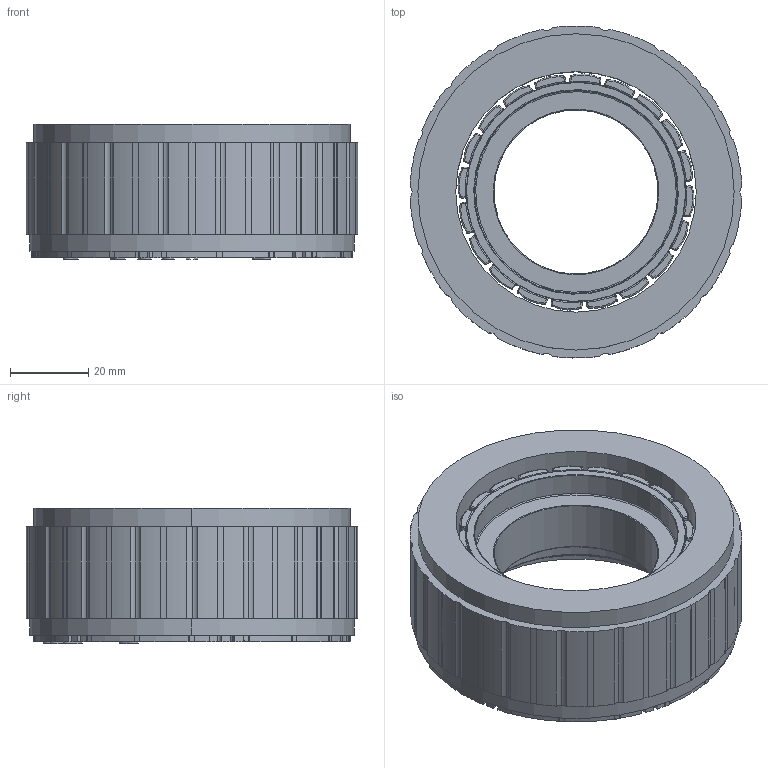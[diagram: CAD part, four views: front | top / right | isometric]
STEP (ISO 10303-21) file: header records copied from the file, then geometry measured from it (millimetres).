
FILE_DESCRIPTION (( 'STEP AP203' ), '1' );
FILE_NAME ('307092060SS 无框力矩电机（FMK08523-0073-3542N-10DP02）-V1.2.STEP', '2025-12-23T07:30:59', ( '' ), ( '' ), 'SwSTEP 2.0', 'SolidWorks 2023', '' );
FILE_SCHEMA (( 'CONFIG_CONTROL_DESIGN' ));
Length unit declared in the file: millimetre
Products named in the file (1): 307092060SS 无框力矩电机（FMK08523-0073-3542N-10DP02）-V1.2
Bounding box: 84.96 x 84.98 x 34.65 mm (x, y, z)
Volume: 113550.2 mm3; surface area: 38674.9 mm2
Topology: 3 solids, 3 shells, 882 faces, 2131 edges, 1222 vertices
Faces by surface type: cylinder 412, plane 196, sphere 160, torus 84, cone 30
Entity records: 24694 total; most frequent: DIRECTION 4867, CARTESIAN_POINT 4144, ORIENTED_EDGE 3982, AXIS2_PLACEMENT_3D 2029, EDGE_CURVE 1991, VERTEX_POINT 1162, CIRCLE 1146, EDGE_LOOP 935
